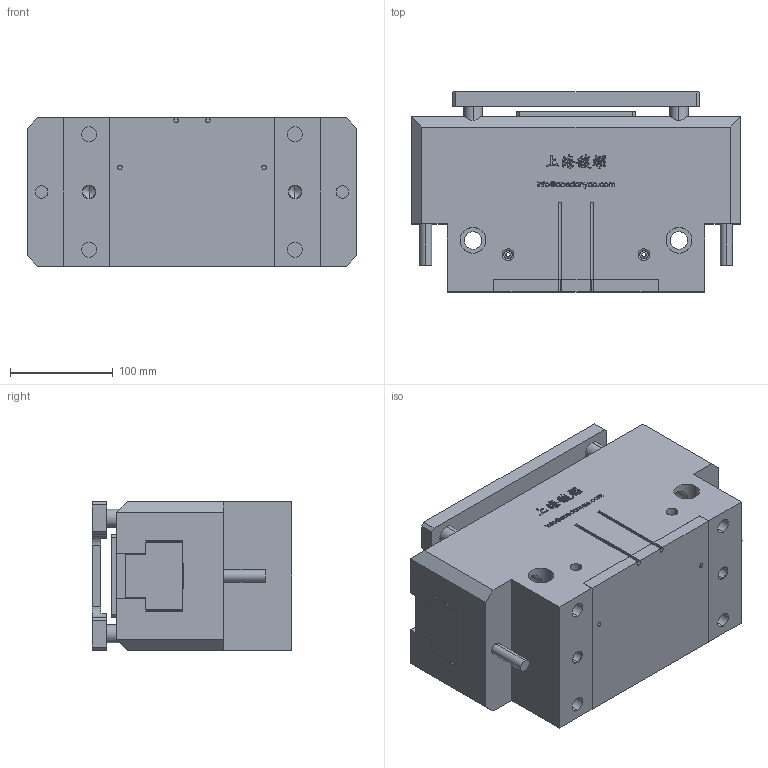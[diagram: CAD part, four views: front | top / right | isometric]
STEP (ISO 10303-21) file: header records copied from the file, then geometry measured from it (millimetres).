
FILE_DESCRIPTION (( 'STEP AP203' ), '1' );
FILE_NAME ('OPP2-320-C1-P-原始檔-組合-W106.04.19.STEP', '2017-04-19T06:55:50', ( 'DanyaoCAD' ), ( '' ), 'SwSTEP 2.0', 'SolidWorks 2016', '' );
FILE_SCHEMA (( 'CONFIG_CONTROL_DESIGN' ));
Length unit declared in the file: millimetre
Products named in the file (6): OPP2-320-C1-P-原始檔-組合-W106.04.19; Fondello; Griffa; Corpo; Piattello; Coperchio
Assembly tree (6 placements, depth 2):
  OPP2-320-C1-P-原始檔-組合-W106.04.19
    Fondello
    Griffa  x2
    Corpo
    Piattello
    Coperchio
Bounding box: 320 x 194 x 144 mm (x, y, z)
Volume: 6964646.4 mm3; surface area: 590283.8 mm2
Topology: 6 solids, 6 shells, 1147 faces, 3172 edges, 2078 vertices
Faces by surface type: bspline 640, plane 323, cylinder 128, cone 56
Entity records: 52595 total; most frequent: CARTESIAN_POINT 28111, ORIENTED_EDGE 6058, EDGE_CURVE 3029, DIRECTION 2917, VERTEX_POINT 2004, LINE 1457, VECTOR 1457, B_SPLINE_CURVE_WITH_KNOTS 1304
